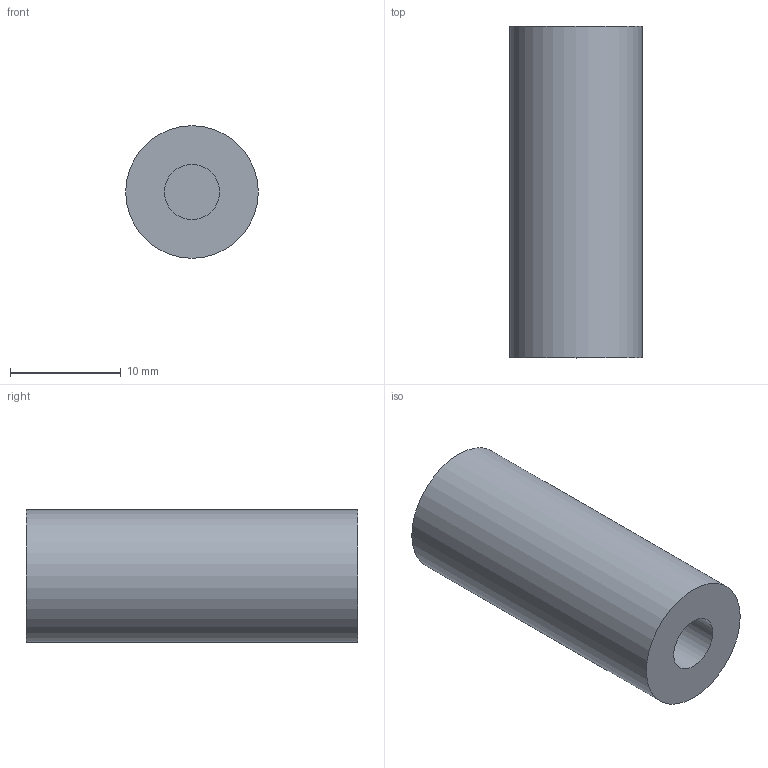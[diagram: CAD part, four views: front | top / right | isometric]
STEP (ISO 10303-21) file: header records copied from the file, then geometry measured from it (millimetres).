
FILE_DESCRIPTION(('Open CASCADE Model'),'2;1');
FILE_NAME('Open CASCADE Shape Model','2026-10-18T22:58:32',('Author'),( 'Open CASCADE'),'Open CASCADE STEP processor 7.9','Open CASCADE 7.9' ,'Unknown');
FILE_SCHEMA(('AUTOMOTIVE_DESIGN { 1 0 10303 214 1 1 1 1 }'));
Length unit declared in the file: millimetre
Products named in the file (1): Open CASCADE STEP translator 7.9 28
Bounding box: 12 x 30 x 12 mm (x, y, z)
Volume: 3216.2 mm3; surface area: 1498.5 mm2
Topology: 1 solids, 1 shells, 5 faces, 6 edges, 4 vertices
Faces by surface type: plane 3, cylinder 2
Full cylindrical faces by diameter (mm): 5 x1, 12 x1
Entity records: 192 total; most frequent: DIRECTION 34, CARTESIAN_POINT 28, ORIENTED_EDGE 12, PCURVE 12, DEFINITIONAL_REPRESENTATION 12, AXIS2_PLACEMENT_3D 10, LINE 10, VECTOR 10
